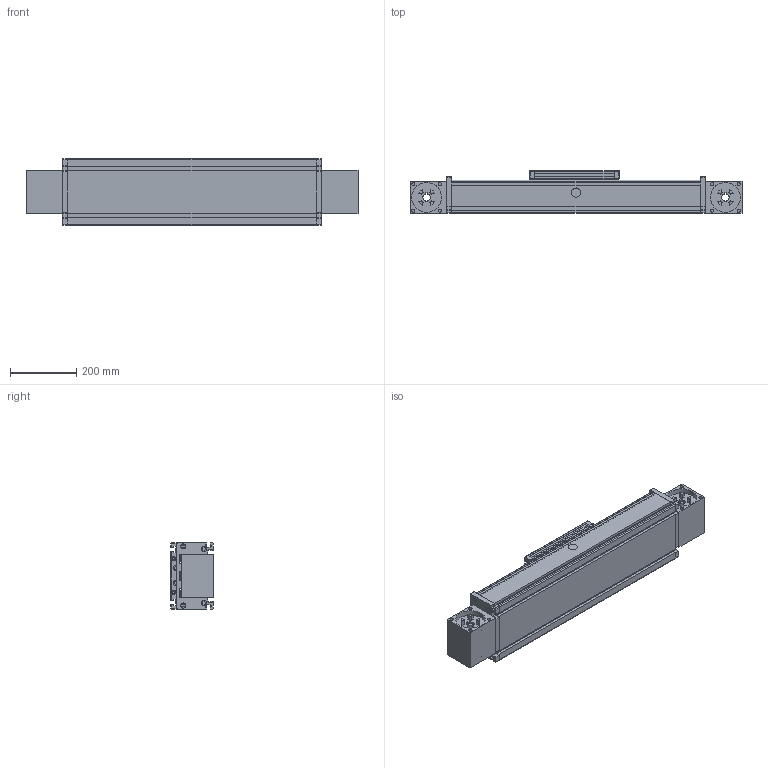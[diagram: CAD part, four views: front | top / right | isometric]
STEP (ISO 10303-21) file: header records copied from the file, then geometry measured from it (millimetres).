
FILE_DESCRIPTION (( 'STEP AP214' ), '1' );
FILE_NAME ('DLZ-200.STEP', '2016-01-14T09:58:40', ( 'admin' ), ( '' ), 'SwSTEP 2.0', 'SolidWorks 2015', '' );
FILE_SCHEMA (( 'AUTOMOTIVE_DESIGN' ));
Length unit declared in the file: millimetre
Products named in the file (6): DLZ-200; Kopie von Bahr-DLZ-DLZ-200  1 0  0 0  0 9  1030_DLZ End_Block(2)^DLZ200 S0 A0_DLZ-200-A; Kopie von Bahr-DLZ-DLZ-200  1 0  0 0  0 9  1030_DLZ End_Block(1)^DLZ200 S0 A0_DLZ-200-B; Kopie von Bahr-DLZ-DLZ-200  1 0  0 0  0 9  1030_DLZ Carriage 200^DLZ200 S0 A0_0; Kopie von Bahr-DLZ-DLZ-200  1 0  0 0  0 9  1030_DLZ Extrusion 200^DLZ200 S0 A0; Kopie von Bahr-DLZ-DLZ-200  1 0  0 0  0 9  1030_DLZ End Plate 200^DLZ200 S0 A0_0
Assembly tree (6 placements, depth 2):
  DLZ-200
    Kopie von Bahr-DLZ-DLZ-200  1 0  0 0  0 9  1030_DLZ End Plate 200^DLZ200 S0 A0_0  x2
    Kopie von Bahr-DLZ-DLZ-200  1 0  0 0  0 9  1030_DLZ Extrusion 200^DLZ200 S0 A0
    Kopie von Bahr-DLZ-DLZ-200  1 0  0 0  0 9  1030_DLZ Carriage 200^DLZ200 S0 A0_0
    Kopie von Bahr-DLZ-DLZ-200  1 0  0 0  0 9  1030_DLZ End_Block(1)^DLZ200 S0 A0_DLZ-200-B
    Kopie von Bahr-DLZ-DLZ-200  1 0  0 0  0 9  1030_DLZ End_Block(2)^DLZ200 S0 A0_DLZ-200-A
Bounding box: 1000 x 129 x 200.2 mm (x, y, z)
Volume: 18520390.1 mm3; surface area: 1125852 mm2
Topology: 10 solids, 10 shells, 808 faces, 2018 edges, 1336 vertices
Faces by surface type: plane 520, cylinder 276, torus 8, cone 4
Entity records: 19191 total; most frequent: DIRECTION 3303, CARTESIAN_POINT 3257, ORIENTED_EDGE 3154, EDGE_CURVE 1577, LINE 1127, VECTOR 1127, AXIS2_PLACEMENT_3D 1088, VERTEX_POINT 1042
